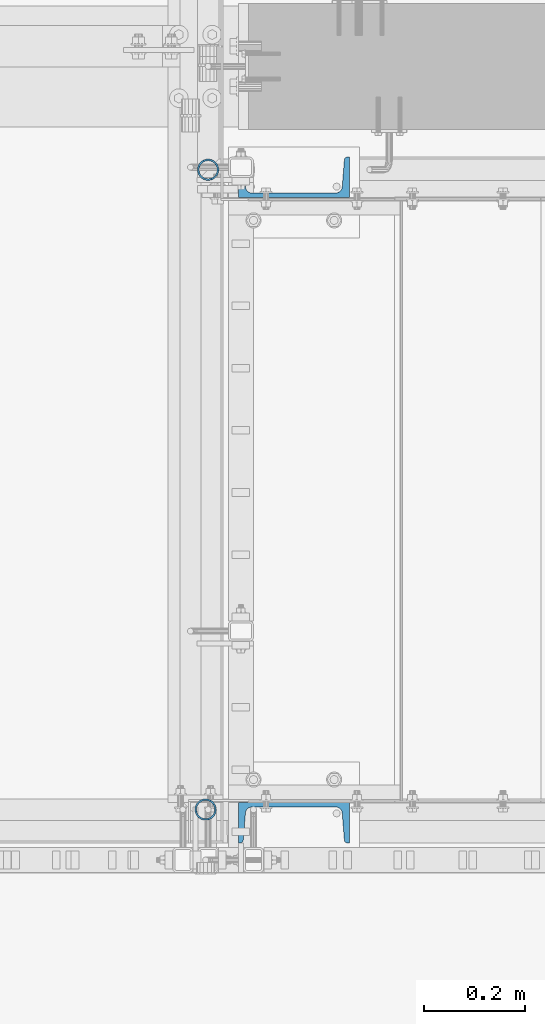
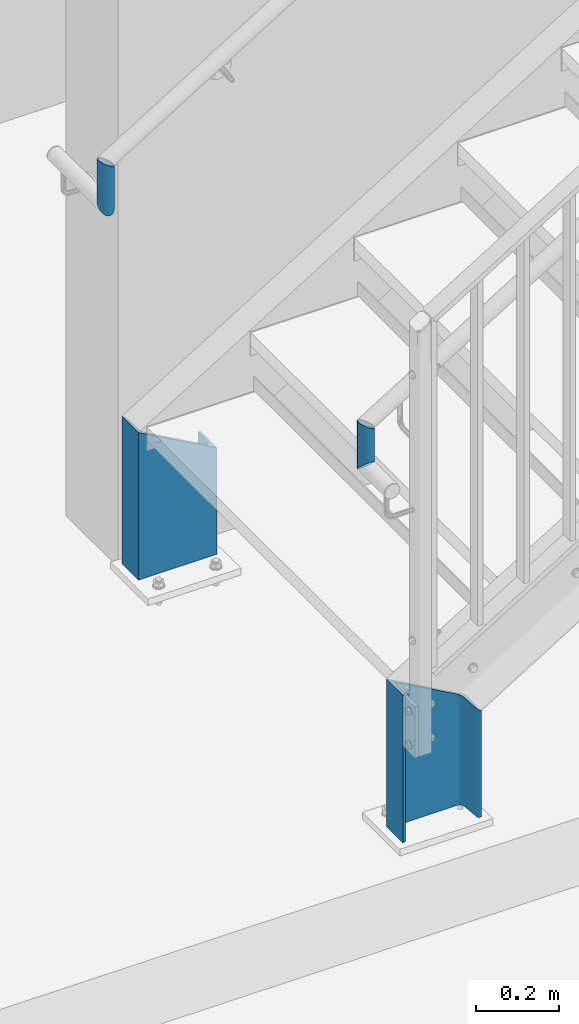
# One storey, part 24 of 410: 4 columns, 2 openings.
"""IFC2X3 building model written with IfcOpenShell, lengths in millimetres."""

from ifc_helpers import new_model, entity, si_unit, converted_unit, frame, frame_2d, origin, origin_with_axes, origin_2d, origin_2d_with_axis, place, context, project, spatial, circle, hollow_circle, u_section, extrude, clip, halfspace, material, element, save


model = new_model("IFC2X3")

# Units and contexts
model_context = context("Model", 3, precision=1e-09, world=origin_with_axes())
ifc_project = project(units=[si_unit("LENGTHUNIT", "METRE", prefix="MILLI"), si_unit("AREAUNIT", "SQUARE_METRE"), si_unit("VOLUMEUNIT", "CUBIC_METRE"), converted_unit("PLANEANGLEUNIT", "DEGREE", entity("IfcPlaneAngleMeasure", 0.01745329), si_unit("PLANEANGLEUNIT", "RADIAN"), dimensions=[0, 0, 0, 0, 0, 0, 0])], contexts=[model_context])

# Site, building, storey
site_placement = place(None, origin_with_axes())
site = spatial("IfcSite", under=ifc_project, at=site_placement, Name="mKR Teilneubau & Sanierung BA1 - Ostfildern", CompositionType="ELEMENT")
building_placement = place(site_placement, origin_with_axes())
building = spatial("IfcBuilding", under=site, at=building_placement, Name="Struktur 1", CompositionType="ELEMENT")
storey_placement = place(building_placement, origin_with_axes())
storey = spatial("IfcBuildingStorey", under=building, at=storey_placement, Name="Default Storey", CompositionType="ELEMENT", Elevation=0.0)

# Column, opening
ifc_material = material(Name="S235JR")
column_1_placement = place(None, frame((-1615.0, 16741.399999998, -4043.502034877), z_axis=(0.0, 0.0, -1.0), x_axis=(0.0, 1.0, 0.0)))
column_1 = element("IfcColumn", 1, at=column_1_placement, inside=storey, material=ifc_material, Name="-", ObjectType="-", context=model_context, shape_type="Clipping", body=[
    clip(clip(extrude(u_section(Depth=220.0, FlangeWidth=80.0, WebThickness=9.0, FlangeThickness=12.5, FilletRadius=12.5, EdgeRadius=6.0, FlangeSlope=4.574, at=frame_2d((18.6, 0.0))), origin(), (0.0, 0.0, 1.0), 973.54496423), halfspace(frame((-16741.399999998, 1615.0, 696.496965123), z_axis=(0.0, 0.0, -1.0), x_axis=(0.0, 1.0, 0.0)), True)), halfspace(frame((-16741.399999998, -626.459299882, -28.278189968), z_axis=(0.0, -0.487433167, 0.873160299), x_axis=(-1.0, 0.0, 0.0)), True)),
])
opening_1_placement = place(column_1_placement, frame((-21.9, -55.0, 302.697965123), z_axis=(1.0, 0.0, 0.0), x_axis=(0.0, 1.0, 0.0)))
element("IfcOpeningElement", 2, at=opening_1_placement, cuts=column_1, ObjectType="Opening", context=model_context, shape_type="SweptSolid", body=[
    extrude(circle(Radius=7.001, at=origin_2d_with_axis()), origin(), (0.0, 0.0, 1.0), 10.0),
])

# Column
column_2_placement = place(None, frame((-1784.998531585, 16775.0, -3481.092253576), z_axis=(0.0, 0.0, 1.0), x_axis=(-1.0, 0.0, 0.0)))
element("IfcColumn", 3, at=column_2_placement, inside=storey, Name="-", ObjectType="-", context=model_context, shape_type="Clipping", body=[
    clip(clip(extrude(hollow_circle(Radius=21.2, WallThickness=3.2, at=origin_2d()), origin(), (0.0, 0.0, -1.0), 202.507746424), halfspace(frame((135.293837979, 16775.0, 41.188744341), z_axis=(0.487433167, 0.0, -0.873160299), x_axis=(0.0, 1.0, 0.0)), True)), halfspace(frame((-1784.998531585, 6566.900707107, -6727.007039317), z_axis=(0.0, 0.707106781, 0.707106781), x_axis=(-1.0, 0.0, 0.0)), True)),
])

# Column, opening
column_3_placement = place(None, frame((-1615.0, 15498.599999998, -4043.502034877), z_axis=(0.0, 0.0, 1.0), x_axis=(0.0, -1.0, 0.0)))
column_3 = element("IfcColumn", 4, at=column_3_placement, inside=storey, material=ifc_material, Name="-", ObjectType="-", context=model_context, shape_type="Clipping", body=[
    clip(clip(extrude(u_section(Depth=220.0, FlangeWidth=80.0, WebThickness=9.0, FlangeThickness=12.5, FilletRadius=12.5, EdgeRadius=6.0, FlangeSlope=4.574, at=frame_2d((18.6, 0.0))), origin(), (0.0, 0.0, -1.0), 973.54496423), halfspace(frame((15498.599999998, 1615.0, -696.496965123), z_axis=(0.0, 0.0, 1.0), x_axis=(0.0, 1.0, 0.0)), True)), halfspace(frame((15498.599999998, -626.459299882, 28.278189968), z_axis=(0.0, -0.487433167, -0.873160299), x_axis=(1.0, 0.0, 0.0)), True)),
])
opening_2_placement = place(column_3_placement, frame((-21.9, -55.0, -302.697965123), z_axis=(1.0, 0.0, 0.0), x_axis=(0.0, 1.0, 0.0)))
element("IfcOpeningElement", 5, at=opening_2_placement, cuts=column_3, ObjectType="Opening", context=model_context, shape_type="SweptSolid", body=[
    extrude(circle(Radius=7.001, at=origin_2d_with_axis()), origin(), (0.0, 0.0, 1.0), 10.0),
])

# Column
column_4_placement = place(None, frame((-1789.998531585, 15505.999999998, -3484.175012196), z_axis=(0.0, 0.0, 1.0), x_axis=(-1.0, 0.0, 0.0)))
element("IfcColumn", 6, at=column_4_placement, inside=storey, Name="-", ObjectType="-", context=model_context, shape_type="Clipping", body=[
    clip(clip(extrude(hollow_circle(Radius=21.2, WallThickness=3.2, at=origin_2d()), origin(), (0.0, 0.0, -1.0), 199.424987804), halfspace(frame((132.793837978, 15505.999999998, 39.79314388), z_axis=(0.487433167, 0.0, -0.873160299), x_axis=(0.0, 1.0, 0.0)), True)), halfspace(frame((-1789.998531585, 9573.599292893, 9416.575719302), z_axis=(0.0, -0.707106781, 0.707106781), x_axis=(1.0, 0.0, 0.0)), True)),
])

save(model, "model.ifc")
